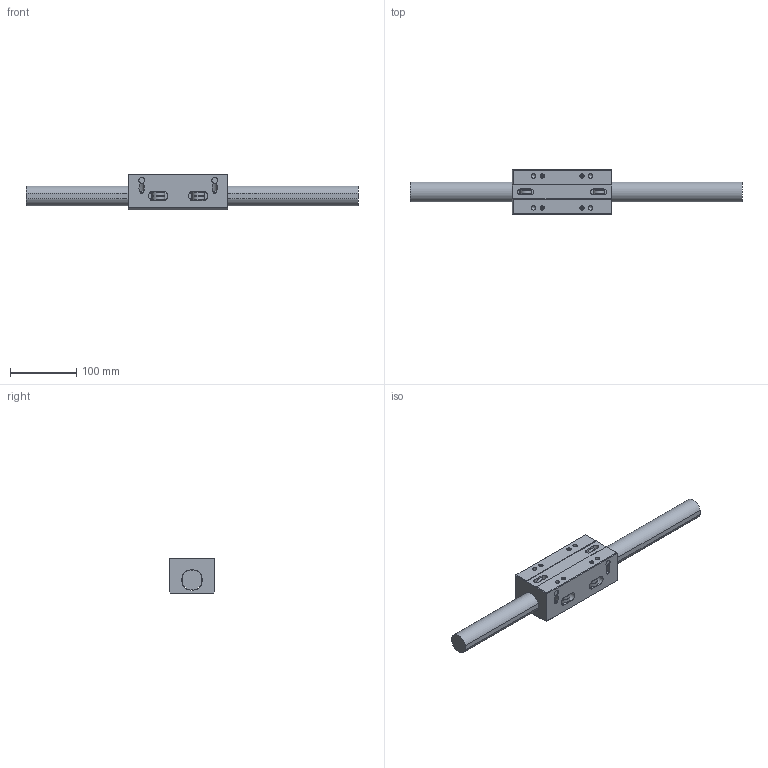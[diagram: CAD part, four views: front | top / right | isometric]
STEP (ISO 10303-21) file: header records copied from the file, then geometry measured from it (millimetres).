
FILE_DESCRIPTION((''),'2;1');
FILE_NAME('D:\製品 (図面)\カタログ用3D\リニアガイド関連\STEP形式\LTW\LTW30.stp','2010-06-02T16:53:12',('Tsuchiya'),(''),'Autodesk Inventor 10','Autodesk Inventor 10','');
FILE_SCHEMA(('AUTOMOTIVE_DESIGN { 1 0 10303 214 1 1 1 1 }'));
Length unit declared in the file: millimetre
Products named in the file (3): LTW30; LTW301; LTW302
Assembly tree (2 placements, depth 2):
  LTW30
    LTW301
    LTW302
Bounding box: 500 x 68 x 54 mm (x, y, z)
Volume: 744080 mm3; surface area: 124992.3 mm2
Topology: 2 solids, 2 shells, 297 faces, 695 edges, 448 vertices
Faces by surface type: bspline 136, plane 86, cylinder 44, cone 26, torus 5
Full cylindrical faces by diameter (mm): 5 x2, 5.5 x2, 6 x3, 6.5 x2, 6.647 x2, 7 x3, 8 x7, 9 x4, 17 x3, 19 x6, 32 x1
Entity records: 9205 total; most frequent: CARTESIAN_POINT 3667, ORIENTED_EDGE 1016, DIRECTION 966, EDGE_LOOP 510, EDGE_CURVE 508, VERTEX_POINT 394, AXIS2_PLACEMENT_3D 370, FACE_OUTER_BOUND 297
